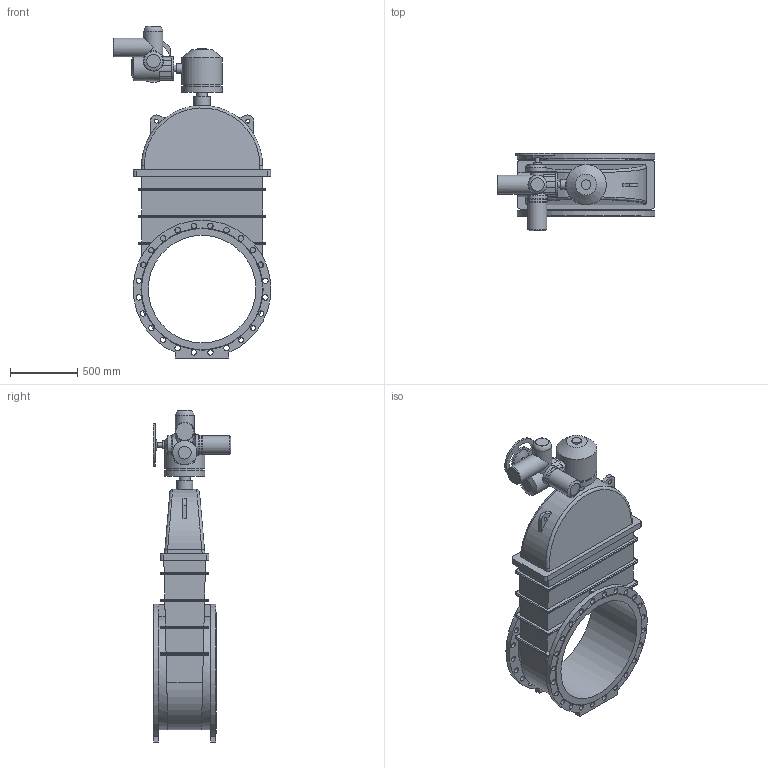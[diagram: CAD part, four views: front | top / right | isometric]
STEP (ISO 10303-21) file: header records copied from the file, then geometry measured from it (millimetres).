
FILE_DESCRIPTION(('STEP AP203'), '1');
FILE_NAME('Çàäâèæêà 47GV.Z DN800 PN10_PN16 + ðåäóêòîð+ÌÒ903.À30', '', ('UNSPECIFIED'), ('UNSPECIFIED'), 'ASCON STEP Converter 1.6', 'ASCON Math Kernel', '');
FILE_SCHEMA(('CONFIG_CONTROL_DESIGN'));
Length unit declared in the file: millimetre
Bounding box: 1174.28 x 579 x 2469.5 mm (x, y, z)
Volume: 352660899 mm3; surface area: 7975000.6 mm2
Topology: 1 solids, 1 shells, 385 faces, 923 edges, 588 vertices
Faces by surface type: cylinder 183, plane 155, bspline 34, cone 12, torus 1
Full cylindrical faces by diameter (mm): 14 x12, 18 x12, 30 x2, 32 x1, 40 x48, 50 x1, 60 x1, 70 x2, 80 x1, 100 x1, 120 x1, 140 x4, 147 x1, 151 x1, 175 x1, 280 x1, 300 x2, 800 x1
Entity records: 18489 total; most frequent: CARTESIAN_POINT 6826, DIRECTION 1699, ORIENTED_EDGE 1636, EDGE_CURVE 818, AXIS2_PLACEMENT_3D 672, EDGE_LOOP 646, VERTEX_POINT 588, FACE_BOUND 441
